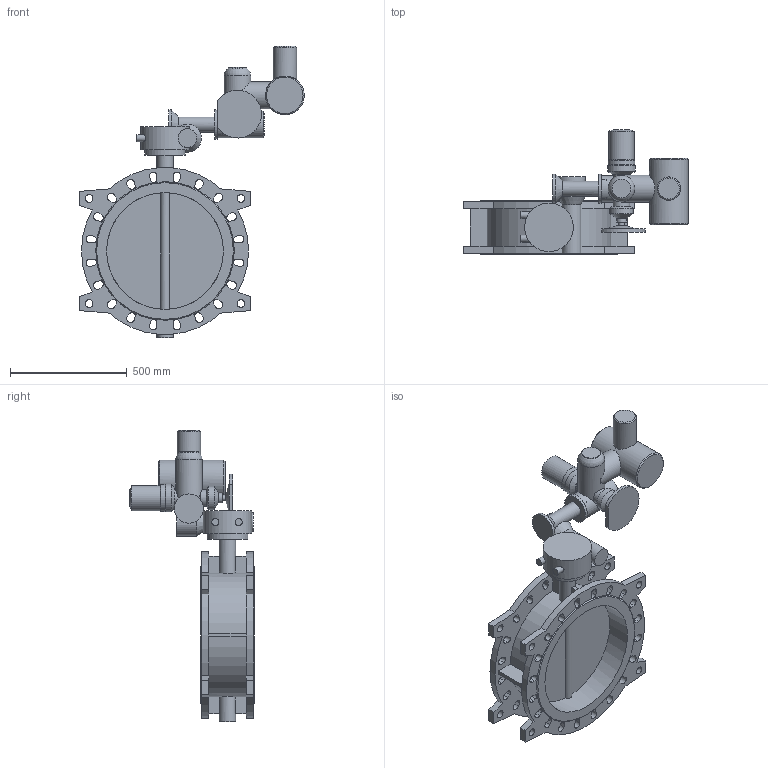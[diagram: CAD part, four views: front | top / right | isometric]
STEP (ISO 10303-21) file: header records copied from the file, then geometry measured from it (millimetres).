
FILE_DESCRIPTION(('STEP AP203'), '1');
FILE_NAME('Çàòâîð 021F.Y DN500 +ðåäóêòîð+ÌÒ903.À07-45 ñ ÁÓ', '', ('UNSPECIFIED'), ('UNSPECIFIED'), 'ASCON STEP Converter 1.6', 'ASCON Math Kernel', '');
FILE_SCHEMA(('CONFIG_CONTROL_DESIGN'));
Length unit declared in the file: millimetre
Bounding box: 961 x 532.5 x 1249 mm (x, y, z)
Volume: 43175465.2 mm3; surface area: 3090635.3 mm2
Topology: 1 solids, 1 shells, 340 faces, 891 edges, 589 vertices
Faces by surface type: plane 174, cylinder 150, cone 15, torus 1
Full cylindrical faces by diameter (mm): 8.5 x4, 12 x4, 14 x4, 18 x4, 24 x1, 30 x2, 33 x8, 42 x1, 65 x1, 66 x1, 70 x2, 72 x1, 80 x2, 100 x2, 108 x1, 114 x2, 115 x1, 116 x1, 119 x1, 120 x1, 125 x2, 166 x1, 175 x1, 208 x1, 500 x2
Entity records: 15639 total; most frequent: CARTESIAN_POINT 4354, DIRECTION 1772, ORIENTED_EDGE 1646, EDGE_CURVE 823, AXIS2_PLACEMENT_3D 651, VERTEX_POINT 589, EDGE_LOOP 540, LINE 470
